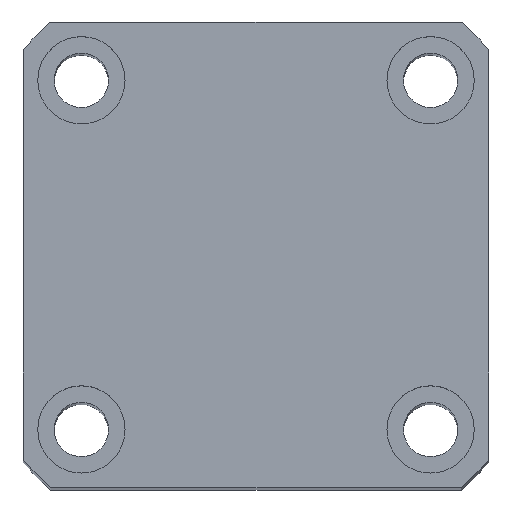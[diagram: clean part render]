
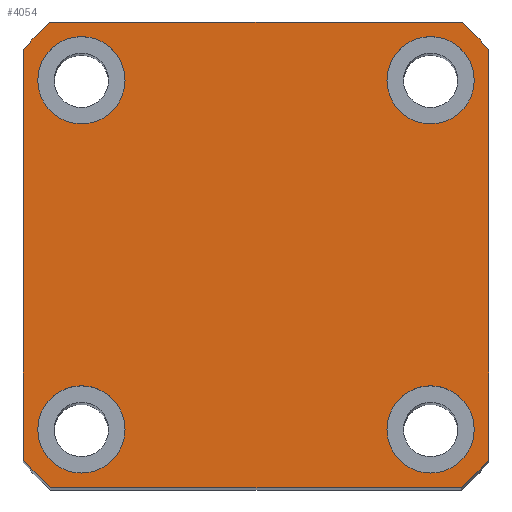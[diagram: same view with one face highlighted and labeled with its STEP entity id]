
A CAD part, top view. The second image highlights one B-rep face of the part: STEP entity #4054.
In plain terms, the highlighted planar face has unit normal (0, 0, 1) as drawn and (1, 0, 0) by its records, which use the part's own axes.
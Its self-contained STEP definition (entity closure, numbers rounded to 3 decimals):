
#50 = CARTESIAN_POINT ( 'NONE',  ( 140., -24., 24. ) ) ;
#233 = CARTESIAN_POINT ( 'NONE',  ( 140., 18., 22.5 ) ) ;
#246 = CIRCLE ( 'NONE', #468, 4.5 ) ;
#304 = DIRECTION ( 'NONE',  ( 0., 0., -1. ) ) ;
#414 = FACE_BOUND ( 'NONE', #5911, .T. ) ;
#419 = ORIENTED_EDGE ( 'NONE', *, *, #7887, .F. ) ;
#468 = AXIS2_PLACEMENT_3D ( 'NONE', #9313, #4382, #10133 ) ;
#588 = CIRCLE ( 'NONE', #5349, 4.5 ) ;
#660 = ORIENTED_EDGE ( 'NONE', *, *, #2380, .T. ) ;
#692 = VERTEX_POINT ( 'NONE', #6324 ) ;
#713 = VERTEX_POINT ( 'NONE', #6626 ) ;
#827 = CARTESIAN_POINT ( 'NONE',  ( 140., 18., -18. ) ) ;
#839 = DIRECTION ( 'NONE',  ( 1., 0., 0. ) ) ;
#842 = DIRECTION ( 'NONE',  ( 0., 0., -1. ) ) ;
#947 = EDGE_LOOP ( 'NONE', ( #419, #2650 ) ) ;
#1210 = VERTEX_POINT ( 'NONE', #2191 ) ;
#1343 = EDGE_CURVE ( 'NONE', #692, #7744, #2148, .T. ) ;
#1446 = CARTESIAN_POINT ( 'NONE',  ( 140., -18., 13.5 ) ) ;
#1764 = DIRECTION ( 'NONE',  ( 0., 0., -1. ) ) ;
#1779 = CARTESIAN_POINT ( 'NONE',  ( 140., 18., 18. ) ) ;
#1873 = EDGE_CURVE ( 'NONE', #10413, #5275, #3222, .T. ) ;
#1930 = DIRECTION ( 'NONE',  ( 1., 0., 0. ) ) ;
#1991 = CARTESIAN_POINT ( 'NONE',  ( 140., 24., 21.166 ) ) ;
#2127 = VERTEX_POINT ( 'NONE', #4331 ) ;
#2148 = CIRCLE ( 'NONE', #7393, 4.5 ) ;
#2191 = CARTESIAN_POINT ( 'NONE',  ( 140., -24., -21.166 ) ) ;
#2214 = AXIS2_PLACEMENT_3D ( 'NONE', #2443, #8195, #3320 ) ;
#2379 = FACE_OUTER_BOUND ( 'NONE', #8296, .T. ) ;
#2380 = EDGE_CURVE ( 'NONE', #3223, #10413, #5670, .T. ) ;
#2393 = ORIENTED_EDGE ( 'NONE', *, *, #5944, .F. ) ;
#2428 = AXIS2_PLACEMENT_3D ( 'NONE', #4461, #10221, #5234 ) ;
#2443 = CARTESIAN_POINT ( 'NONE',  ( 140., 18., -18. ) ) ;
#2466 = LINE ( 'NONE', #4526, #4413 ) ;
#2632 = DIRECTION ( 'NONE',  ( 0., 0., 1. ) ) ;
#2650 = ORIENTED_EDGE ( 'NONE', *, *, #8716, .F. ) ;
#2753 = CARTESIAN_POINT ( 'NONE',  ( 140., 24., 24. ) ) ;
#2823 = EDGE_CURVE ( 'NONE', #2127, #1210, #3978, .T. ) ;
#3133 = CARTESIAN_POINT ( 'NONE',  ( 140., 24., 24. ) ) ;
#3211 = VERTEX_POINT ( 'NONE', #9252 ) ;
#3222 = CIRCLE ( 'NONE', #9938, 32. ) ;
#3223 = VERTEX_POINT ( 'NONE', #9212 ) ;
#3320 = DIRECTION ( 'NONE',  ( 0., 0., -1. ) ) ;
#3367 = ORIENTED_EDGE ( 'NONE', *, *, #7188, .F. ) ;
#3370 = DIRECTION ( 'NONE',  ( 1., 0., 0. ) ) ;
#3391 = CARTESIAN_POINT ( 'NONE',  ( 140., -18., 22.5 ) ) ;
#3423 = VERTEX_POINT ( 'NONE', #7245 ) ;
#3538 = AXIS2_PLACEMENT_3D ( 'NONE', #4638, #10414, #5410 ) ;
#3564 = CARTESIAN_POINT ( 'NONE',  ( 140., 21.166, 24. ) ) ;
#3675 = CIRCLE ( 'NONE', #6314, 4.5 ) ;
#3851 = CARTESIAN_POINT ( 'NONE',  ( 140., 18., -13.5 ) ) ;
#3950 = EDGE_CURVE ( 'NONE', #7416, #3223, #4805, .T. ) ;
#3978 = LINE ( 'NONE', #50, #10258 ) ;
#4054 = ADVANCED_FACE ( 'NONE', ( #6749, #8951, #414, #4569, #2379 ), #9669, .T. ) ;
#4084 = EDGE_LOOP ( 'NONE', ( #10145, #4388 ) ) ;
#4237 = DIRECTION ( 'NONE',  ( 1., 0., 0. ) ) ;
#4331 = CARTESIAN_POINT ( 'NONE',  ( 140., -24., 21.166 ) ) ;
#4382 = DIRECTION ( 'NONE',  ( 1., 0., 0. ) ) ;
#4388 = ORIENTED_EDGE ( 'NONE', *, *, #4410, .F. ) ;
#4410 = EDGE_CURVE ( 'NONE', #5348, #3423, #8403, .T. ) ;
#4413 = VECTOR ( 'NONE', #5326, 1000. ) ;
#4447 = ORIENTED_EDGE ( 'NONE', *, *, #8851, .T. ) ;
#4461 = CARTESIAN_POINT ( 'NONE',  ( 140., 0., 0. ) ) ;
#4496 = CIRCLE ( 'NONE', #8713, 32. ) ;
#4526 = CARTESIAN_POINT ( 'NONE',  ( 140., 24., -24. ) ) ;
#4555 = VERTEX_POINT ( 'NONE', #3391 ) ;
#4569 = FACE_BOUND ( 'NONE', #4084, .T. ) ;
#4638 = CARTESIAN_POINT ( 'NONE',  ( 140., -18., -18. ) ) ;
#4650 = AXIS2_PLACEMENT_3D ( 'NONE', #6600, #6566, #5805 ) ;
#4789 = EDGE_CURVE ( 'NONE', #5382, #7416, #2466, .T. ) ;
#4805 = CIRCLE ( 'NONE', #4650, 32. ) ;
#4885 = DIRECTION ( 'NONE',  ( 1., 0., 0. ) ) ;
#4917 = ORIENTED_EDGE ( 'NONE', *, *, #2823, .T. ) ;
#5226 = DIRECTION ( 'NONE',  ( 1., 0., 0. ) ) ;
#5234 = DIRECTION ( 'NONE',  ( 0., 0., -1. ) ) ;
#5275 = VERTEX_POINT ( 'NONE', #3564 ) ;
#5279 = ORIENTED_EDGE ( 'NONE', *, *, #4789, .T. ) ;
#5326 = DIRECTION ( 'NONE',  ( 0., 1., 0. ) ) ;
#5348 = VERTEX_POINT ( 'NONE', #233 ) ;
#5349 = AXIS2_PLACEMENT_3D ( 'NONE', #10215, #5226, #304 ) ;
#5382 = VERTEX_POINT ( 'NONE', #6012 ) ;
#5410 = DIRECTION ( 'NONE',  ( 0., 0., -1. ) ) ;
#5610 = CIRCLE ( 'NONE', #2428, 32. ) ;
#5670 = LINE ( 'NONE', #2753, #7418 ) ;
#5683 = EDGE_CURVE ( 'NONE', #713, #2127, #5610, .T. ) ;
#5805 = DIRECTION ( 'NONE',  ( 0., 0., -1. ) ) ;
#5814 = VERTEX_POINT ( 'NONE', #1446 ) ;
#5911 = EDGE_LOOP ( 'NONE', ( #10229, #2393 ) ) ;
#5923 = ORIENTED_EDGE ( 'NONE', *, *, #9984, .T. ) ;
#5944 = EDGE_CURVE ( 'NONE', #7744, #692, #10085, .T. ) ;
#5973 = CIRCLE ( 'NONE', #10518, 4.5 ) ;
#6012 = CARTESIAN_POINT ( 'NONE',  ( 140., -21.166, -24. ) ) ;
#6094 = VECTOR ( 'NONE', #8004, 1000. ) ;
#6285 = CARTESIAN_POINT ( 'NONE',  ( 140., -18., -22.5 ) ) ;
#6314 = AXIS2_PLACEMENT_3D ( 'NONE', #9142, #4237, #9970 ) ;
#6324 = CARTESIAN_POINT ( 'NONE',  ( 140., 18., -22.5 ) ) ;
#6370 = LINE ( 'NONE', #3133, #6094 ) ;
#6566 = DIRECTION ( 'NONE',  ( 1., 0., 0. ) ) ;
#6600 = CARTESIAN_POINT ( 'NONE',  ( 140., 0., 0. ) ) ;
#6626 = CARTESIAN_POINT ( 'NONE',  ( 140., -21.166, 24. ) ) ;
#6749 = FACE_BOUND ( 'NONE', #8156, .T. ) ;
#6802 = DIRECTION ( 'NONE',  ( 0., 0., -1. ) ) ;
#6857 = EDGE_CURVE ( 'NONE', #7283, #3211, #10313, .T. ) ;
#6871 = DIRECTION ( 'NONE',  ( 1., 0., 0. ) ) ;
#6880 = CARTESIAN_POINT ( 'NONE',  ( 140., 0., 0. ) ) ;
#6953 = AXIS2_PLACEMENT_3D ( 'NONE', #1779, #1930, #1764 ) ;
#7188 = EDGE_CURVE ( 'NONE', #3211, #7283, #246, .T. ) ;
#7240 = ORIENTED_EDGE ( 'NONE', *, *, #6857, .F. ) ;
#7245 = CARTESIAN_POINT ( 'NONE',  ( 140., 18., 13.5 ) ) ;
#7283 = VERTEX_POINT ( 'NONE', #6285 ) ;
#7393 = AXIS2_PLACEMENT_3D ( 'NONE', #827, #839, #842 ) ;
#7416 = VERTEX_POINT ( 'NONE', #10589 ) ;
#7418 = VECTOR ( 'NONE', #2632, 1000. ) ;
#7744 = VERTEX_POINT ( 'NONE', #3851 ) ;
#7887 = EDGE_CURVE ( 'NONE', #5814, #4555, #3675, .T. ) ;
#7897 = ORIENTED_EDGE ( 'NONE', *, *, #5683, .T. ) ;
#8004 = DIRECTION ( 'NONE',  ( 0., -1., 0. ) ) ;
#8070 = DIRECTION ( 'NONE',  ( 0., 0., -1. ) ) ;
#8156 = EDGE_LOOP ( 'NONE', ( #7240, #3367 ) ) ;
#8195 = DIRECTION ( 'NONE',  ( 1., 0., 0. ) ) ;
#8254 = CARTESIAN_POINT ( 'NONE',  ( 140., 18., 18. ) ) ;
#8280 = ORIENTED_EDGE ( 'NONE', *, *, #3950, .T. ) ;
#8296 = EDGE_LOOP ( 'NONE', ( #5279, #8280, #660, #9217, #5923, #7897, #4917, #4447 ) ) ;
#8368 = DIRECTION ( 'NONE',  ( 0., 0., -1. ) ) ;
#8403 = CIRCLE ( 'NONE', #6953, 4.5 ) ;
#8531 = AXIS2_PLACEMENT_3D ( 'NONE', #8905, #8825, #8070 ) ;
#8713 = AXIS2_PLACEMENT_3D ( 'NONE', #9848, #4885, #10682 ) ;
#8716 = EDGE_CURVE ( 'NONE', #4555, #5814, #588, .T. ) ;
#8825 = DIRECTION ( 'NONE',  ( 1., 0., 0. ) ) ;
#8851 = EDGE_CURVE ( 'NONE', #1210, #5382, #4496, .T. ) ;
#8905 = CARTESIAN_POINT ( 'NONE',  ( 140., 0., 0. ) ) ;
#8951 = FACE_BOUND ( 'NONE', #947, .T. ) ;
#9080 = DIRECTION ( 'NONE',  ( 0., 0., -1. ) ) ;
#9142 = CARTESIAN_POINT ( 'NONE',  ( 140., -18., 18. ) ) ;
#9212 = CARTESIAN_POINT ( 'NONE',  ( 140., 24., -21.166 ) ) ;
#9217 = ORIENTED_EDGE ( 'NONE', *, *, #1873, .T. ) ;
#9252 = CARTESIAN_POINT ( 'NONE',  ( 140., -18., -13.5 ) ) ;
#9313 = CARTESIAN_POINT ( 'NONE',  ( 140., -18., -18. ) ) ;
#9612 = EDGE_CURVE ( 'NONE', #3423, #5348, #5973, .T. ) ;
#9669 = PLANE ( 'NONE',  #8531 ) ;
#9848 = CARTESIAN_POINT ( 'NONE',  ( 140., 0., 0. ) ) ;
#9938 = AXIS2_PLACEMENT_3D ( 'NONE', #6880, #6871, #6802 ) ;
#9970 = DIRECTION ( 'NONE',  ( 0., 0., -1. ) ) ;
#9984 = EDGE_CURVE ( 'NONE', #5275, #713, #6370, .T. ) ;
#10085 = CIRCLE ( 'NONE', #2214, 4.5 ) ;
#10133 = DIRECTION ( 'NONE',  ( 0., 0., -1. ) ) ;
#10145 = ORIENTED_EDGE ( 'NONE', *, *, #9612, .F. ) ;
#10215 = CARTESIAN_POINT ( 'NONE',  ( 140., -18., 18. ) ) ;
#10221 = DIRECTION ( 'NONE',  ( 1., 0., 0. ) ) ;
#10229 = ORIENTED_EDGE ( 'NONE', *, *, #1343, .F. ) ;
#10258 = VECTOR ( 'NONE', #8368, 1000. ) ;
#10313 = CIRCLE ( 'NONE', #3538, 4.5 ) ;
#10413 = VERTEX_POINT ( 'NONE', #1991 ) ;
#10414 = DIRECTION ( 'NONE',  ( 1., 0., 0. ) ) ;
#10518 = AXIS2_PLACEMENT_3D ( 'NONE', #8254, #3370, #9080 ) ;
#10589 = CARTESIAN_POINT ( 'NONE',  ( 140., 21.166, -24. ) ) ;
#10682 = DIRECTION ( 'NONE',  ( 0., 0., -1. ) ) ;
